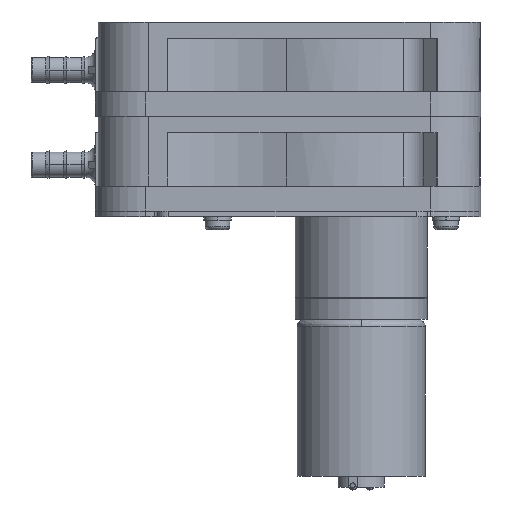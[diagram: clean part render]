
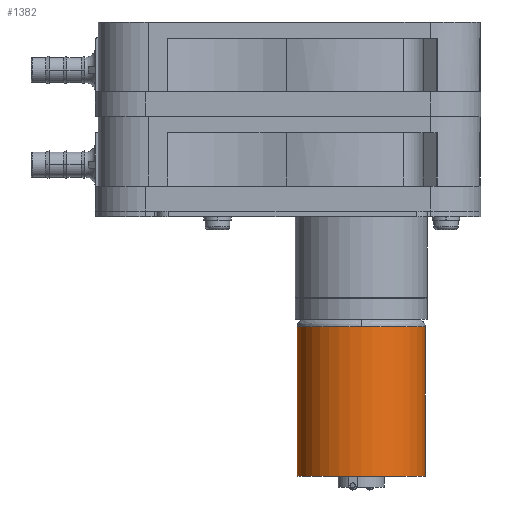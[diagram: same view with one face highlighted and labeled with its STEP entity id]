
A CAD part, left-side view. The second image highlights one B-rep face of the part: STEP entity #1382.
In plain terms, the highlighted cylindrical face has radius 18 mm (diameter 36 mm), a partial arc.
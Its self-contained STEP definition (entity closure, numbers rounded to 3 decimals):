
#315 = DIRECTION ( 'NONE',  ( 0., -1., 0. ) ) ;
#762 = VERTEX_POINT ( 'NONE', #3085 ) ;
#1070 = CARTESIAN_POINT ( 'NONE',  ( 0., 31.05, 0. ) ) ;
#1194 = DIRECTION ( 'NONE',  ( -1., 0., 0. ) ) ;
#1382 = ADVANCED_FACE ( 'NONE', ( #9889 ), #15881, .T. ) ;
#1655 = CARTESIAN_POINT ( 'NONE',  ( 0., 31.05, 0. ) ) ;
#1692 = ORIENTED_EDGE ( 'NONE', *, *, #7356, .T. ) ;
#1873 = EDGE_LOOP ( 'NONE', ( #12821, #17239, #21904, #15929, #1692 ) ) ;
#2338 = EDGE_CURVE ( 'NONE', #762, #2382, #20975, .T. ) ;
#2382 = VERTEX_POINT ( 'NONE', #3059 ) ;
#3059 = CARTESIAN_POINT ( 'NONE',  ( -18., 31.05, 0. ) ) ;
#3085 = CARTESIAN_POINT ( 'NONE',  ( 0., 31.05, -18. ) ) ;
#3537 = VERTEX_POINT ( 'NONE', #10585 ) ;
#4410 = VERTEX_POINT ( 'NONE', #21225 ) ;
#4539 = DIRECTION ( 'NONE',  ( 0., 0., 1. ) ) ;
#5353 = CIRCLE ( 'NONE', #15750, 18. ) ;
#5896 = CARTESIAN_POINT ( 'NONE',  ( 0., 31.05, 18. ) ) ;
#5932 = VECTOR ( 'NONE', #8411, 1000. ) ;
#6024 = DIRECTION ( 'NONE',  ( 0., -1., 0. ) ) ;
#6171 = CARTESIAN_POINT ( 'NONE',  ( 0., 73.05, -18. ) ) ;
#6291 = DIRECTION ( 'NONE',  ( 0., 0., -1. ) ) ;
#7356 = EDGE_CURVE ( 'NONE', #2382, #13338, #11993, .T. ) ;
#8411 = DIRECTION ( 'NONE',  ( 0., -1., 0. ) ) ;
#9745 = CARTESIAN_POINT ( 'NONE',  ( 0., 73.05, 18. ) ) ;
#9889 = FACE_OUTER_BOUND ( 'NONE', #1873, .T. ) ;
#10585 = CARTESIAN_POINT ( 'NONE',  ( 0., 73.05, 18. ) ) ;
#10650 = DIRECTION ( 'NONE',  ( 0., 1., 0. ) ) ;
#11993 = CIRCLE ( 'NONE', #14386, 18. ) ;
#12107 = VECTOR ( 'NONE', #6024, 1000. ) ;
#12821 = ORIENTED_EDGE ( 'NONE', *, *, #24397, .F. ) ;
#13338 = VERTEX_POINT ( 'NONE', #5896 ) ;
#13631 = CARTESIAN_POINT ( 'NONE',  ( 0., 73.05, 0. ) ) ;
#14012 = CARTESIAN_POINT ( 'NONE',  ( 0., 73.05, 0. ) ) ;
#14386 = AXIS2_PLACEMENT_3D ( 'NONE', #1655, #24094, #24592 ) ;
#15362 = LINE ( 'NONE', #9745, #12107 ) ;
#15750 = AXIS2_PLACEMENT_3D ( 'NONE', #14012, #21637, #4539 ) ;
#15881 = CYLINDRICAL_SURFACE ( 'NONE', #16476, 18. ) ;
#15929 = ORIENTED_EDGE ( 'NONE', *, *, #2338, .T. ) ;
#16476 = AXIS2_PLACEMENT_3D ( 'NONE', #13631, #315, #6291 ) ;
#17239 = ORIENTED_EDGE ( 'NONE', *, *, #24008, .F. ) ;
#18853 = EDGE_CURVE ( 'NONE', #4410, #762, #23248, .T. ) ;
#20975 = CIRCLE ( 'NONE', #23764, 18. ) ;
#21225 = CARTESIAN_POINT ( 'NONE',  ( 0., 73.05, -18. ) ) ;
#21637 = DIRECTION ( 'NONE',  ( 0., 1., 0. ) ) ;
#21904 = ORIENTED_EDGE ( 'NONE', *, *, #18853, .T. ) ;
#23248 = LINE ( 'NONE', #6171, #5932 ) ;
#23764 = AXIS2_PLACEMENT_3D ( 'NONE', #1070, #10650, #1194 ) ;
#24008 = EDGE_CURVE ( 'NONE', #4410, #3537, #5353, .T. ) ;
#24094 = DIRECTION ( 'NONE',  ( 0., 1., 0. ) ) ;
#24397 = EDGE_CURVE ( 'NONE', #3537, #13338, #15362, .T. ) ;
#24592 = DIRECTION ( 'NONE',  ( -1., 0., 0. ) ) ;
